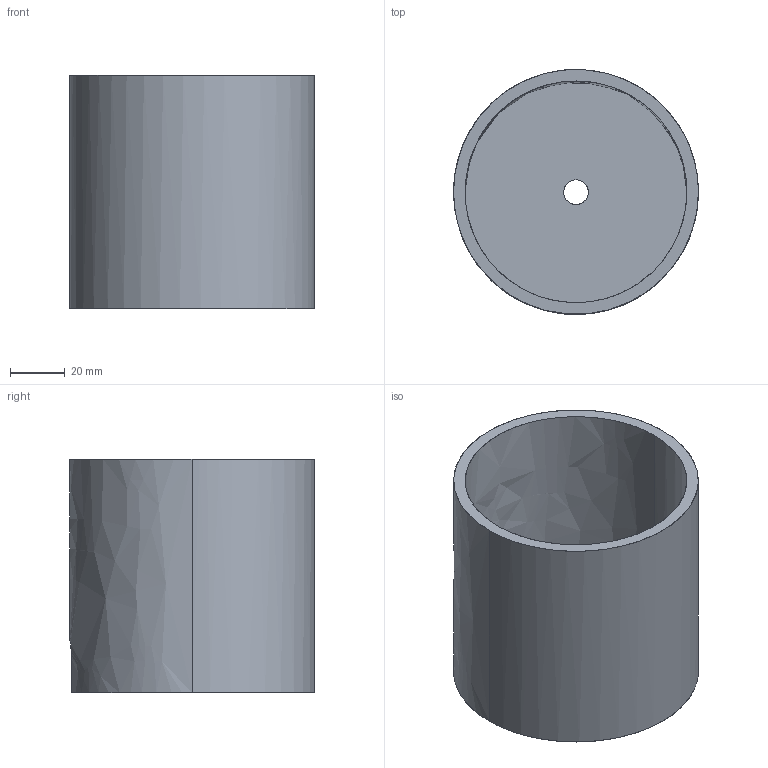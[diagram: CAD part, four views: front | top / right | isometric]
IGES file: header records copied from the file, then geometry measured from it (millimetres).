
Global section: file name: E:\UnigraphicsGraphicData\MISUMI_PRESS-PARTS\IGES\3d_phn50-85-r_07081_r00.igs; native system: NX V5.0; preprocessor: UGS NX IGES V5.0; author: MISUMI; date: 20110105.162250; units: millimetre
Bounding box: 89.1 x 89.1 x 85 mm (x, y, z)
Surface area: 57726.6 mm2 (no closed solid volume)
Topology: 0 solids, 0 shells, 15 faces, 178 edges, 178 vertices
Faces by surface type: bspline 15
